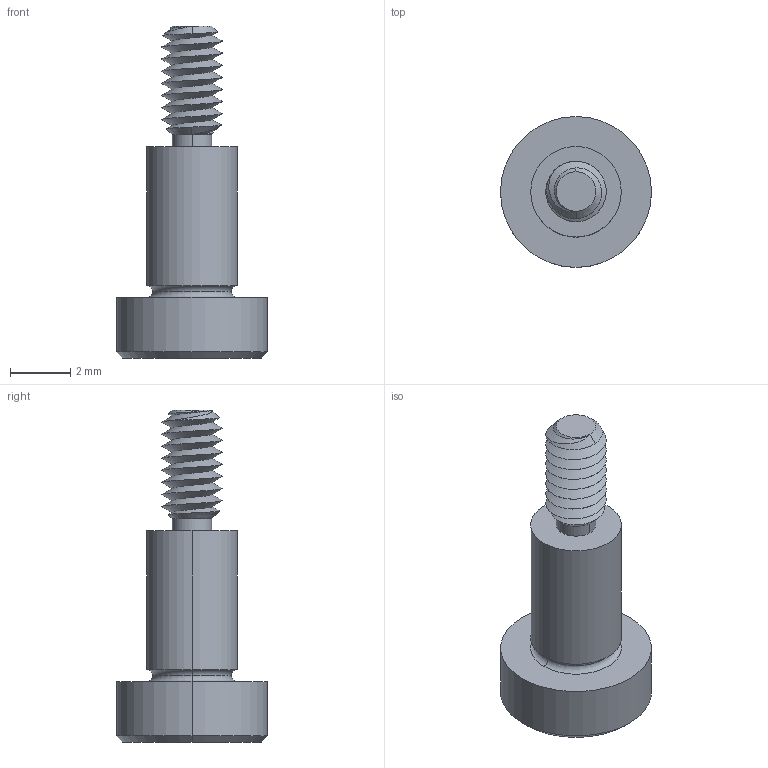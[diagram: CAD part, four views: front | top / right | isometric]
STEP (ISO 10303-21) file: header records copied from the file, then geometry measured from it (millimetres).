
FILE_DESCRIPTION (( 'STEP AP203' ), '1' );
FILE_NAME ('P0130.030-005-B2.step', '2021-11-09T20:53:47', ( '' ), ( '' ), 'SwSTEP 2.0', 'SolidWorks 2019', '' );
FILE_SCHEMA (( 'CONFIG_CONTROL_DESIGN' ));
Length unit declared in the file: millimetre
Products named in the file (1): P0130.030-005-B2
Bounding box: 5 x 5 x 11 mm (x, y, z)
Volume: 78.7 mm3; surface area: 163.2 mm2
Topology: 1 solids, 1 shells, 58 faces, 136 edges, 81 vertices
Faces by surface type: cylinder 22, plane 16, cone 14, torus 4, bspline 2
Entity records: 2452 total; most frequent: CARTESIAN_POINT 1166, ORIENTED_EDGE 268, DIRECTION 241, EDGE_CURVE 134, AXIS2_PLACEMENT_3D 97, VERTEX_POINT 81, EDGE_LOOP 61, ADVANCED_FACE 58
